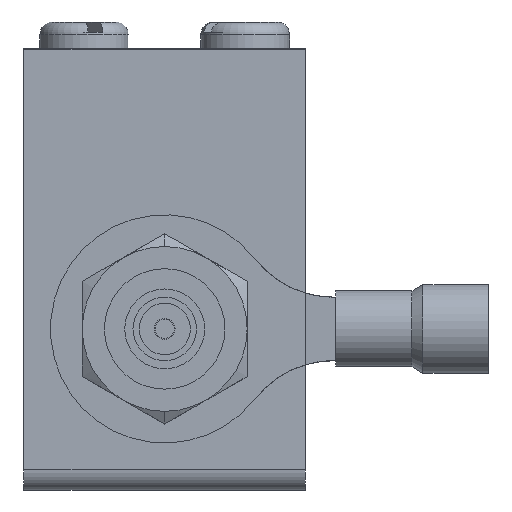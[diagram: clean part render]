
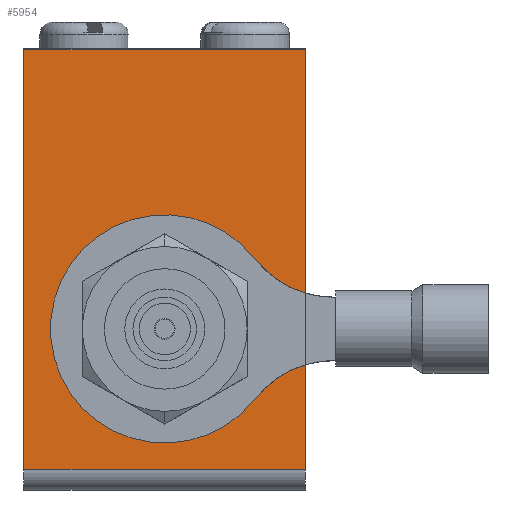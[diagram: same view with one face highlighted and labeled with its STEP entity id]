
A CAD part, front view. The second image highlights one B-rep face of the part: STEP entity #5954.
In plain terms, the highlighted planar face has unit normal (0, -1, 0).
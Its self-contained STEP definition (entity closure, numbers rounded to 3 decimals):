
#2657=VECTOR('',#4295,1.);
#2660=VECTOR('',#4312,1.);
#2661=VECTOR('',#4313,1.);
#2662=VECTOR('',#4314,1.);
#2663=VECTOR('',#4315,1.);
#2744=LINE('',#4864,#2657);
#2747=LINE('',#4882,#2660);
#2748=LINE('',#4883,#2661);
#2749=LINE('',#4885,#2662);
#2750=LINE('',#4887,#2663);
#2821=PLANE('',#5699);
#2910=ORIENTED_EDGE('',*,*,#3679,.F.);
#2911=ORIENTED_EDGE('',*,*,#3680,.F.);
#2912=ORIENTED_EDGE('',*,*,#3670,.F.);
#2913=ORIENTED_EDGE('',*,*,#3681,.T.);
#2914=ORIENTED_EDGE('',*,*,#3682,.F.);
#2915=ORIENTED_EDGE('',*,*,#3683,.T.);
#2916=ORIENTED_EDGE('',*,*,#3684,.F.);
#2917=ORIENTED_EDGE('',*,*,#3685,.T.);
#3388=CIRCLE('',#5700,8.);
#3389=CIRCLE('',#5701,9.);
#3390=CIRCLE('',#5702,8.);
#3500=VERTEX_POINT('',#4862);
#3501=VERTEX_POINT('',#4863);
#3508=VERTEX_POINT('',#4880);
#3509=VERTEX_POINT('',#4881);
#3510=VERTEX_POINT('',#4884);
#3511=VERTEX_POINT('',#4886);
#3512=VERTEX_POINT('',#4888);
#3513=VERTEX_POINT('',#4890);
#3670=EDGE_CURVE('',#3500,#3501,#2744,.T.);
#3679=EDGE_CURVE('',#3508,#3509,#2747,.T.);
#3680=EDGE_CURVE('',#3501,#3508,#2748,.T.);
#3681=EDGE_CURVE('',#3500,#3510,#2749,.T.);
#3682=EDGE_CURVE('',#3511,#3510,#2750,.T.);
#3683=EDGE_CURVE('',#3511,#3512,#3388,.T.);
#3684=EDGE_CURVE('',#3513,#3512,#3389,.T.);
#3685=EDGE_CURVE('',#3513,#3509,#3390,.T.);
#3915=EDGE_LOOP('',(#2910,#2911,#2912,#2913,#2914,#2915,#2916,#2917));
#4097=FACE_BOUND('',#3915,.T.);
#4295=DIRECTION('',(0.,0.,33.1));
#4310=DIRECTION('',(0.,-1.,0.));
#4311=DIRECTION('',(-1.,0.,0.));
#4312=DIRECTION('',(0.,0.,-19.171));
#4313=DIRECTION('',(22.2,0.,0.));
#4314=DIRECTION('',(22.2,0.,0.));
#4315=DIRECTION('',(0.,0.,-8.271));
#4316=DIRECTION('',(0.,-1.,0.));
#4317=DIRECTION('',(0.,0.,8.));
#4318=DIRECTION('',(0.,-1.,0.));
#4319=DIRECTION('',(7.078,0.,5.559));
#4320=DIRECTION('',(0.,-1.,0.));
#4321=DIRECTION('',(-6.292,0.,-4.941));
#4862=CARTESIAN_POINT('',(120.507,50.74,-106.497));
#4863=CARTESIAN_POINT('',(120.507,50.74,-73.397));
#4864=CARTESIAN_POINT('',(120.507,50.74,-106.497));
#4879=CARTESIAN_POINT('',(142.707,50.74,-73.397));
#4880=CARTESIAN_POINT('',(142.707,50.74,-73.397));
#4881=CARTESIAN_POINT('',(142.707,50.74,-92.569));
#4882=CARTESIAN_POINT('',(142.707,50.74,-73.397));
#4883=CARTESIAN_POINT('',(120.507,50.74,-73.397));
#4884=CARTESIAN_POINT('',(142.707,50.74,-106.497));
#4885=CARTESIAN_POINT('',(120.507,50.74,-106.497));
#4886=CARTESIAN_POINT('',(142.707,50.74,-98.226));
#4887=CARTESIAN_POINT('',(142.707,50.74,-98.226));
#4888=CARTESIAN_POINT('',(138.685,50.74,-100.956));
#4889=CARTESIAN_POINT('',(144.977,50.74,-105.897));
#4890=CARTESIAN_POINT('',(138.685,50.74,-89.839));
#4891=CARTESIAN_POINT('',(131.607,50.74,-95.397));
#4892=CARTESIAN_POINT('',(144.977,50.74,-84.897));
#5699=AXIS2_PLACEMENT_3D('',#4879,#4310,#4311);
#5700=AXIS2_PLACEMENT_3D('',#4889,#4316,#4317);
#5701=AXIS2_PLACEMENT_3D('',#4891,#4318,#4319);
#5702=AXIS2_PLACEMENT_3D('',#4892,#4320,#4321);
#5954=ADVANCED_FACE('',(#4097),#2821,.T.);
